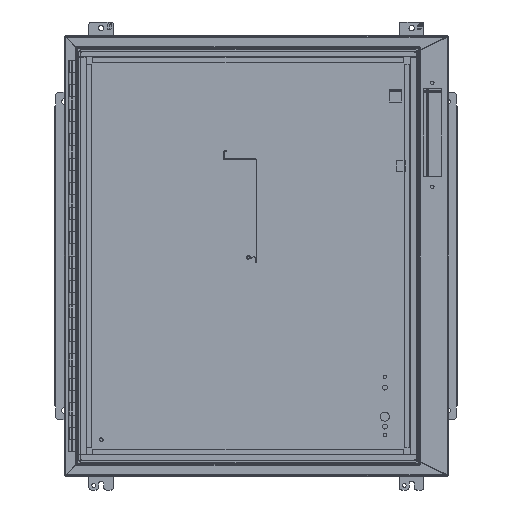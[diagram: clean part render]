
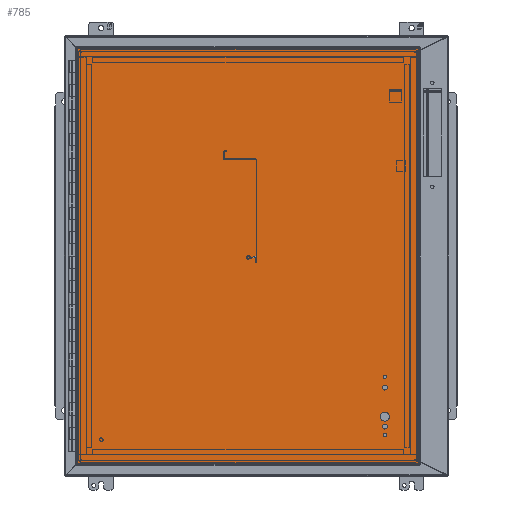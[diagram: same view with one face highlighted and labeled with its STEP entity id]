
A CAD part, front view. The second image highlights one B-rep face of the part: STEP entity #785.
In plain terms, the highlighted planar face has unit normal (0, -1, 0).
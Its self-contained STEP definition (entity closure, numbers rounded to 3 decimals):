
#785 = ADVANCED_FACE( '', ( #1780, #1781, #1782, #1783, #1784, #1785 ), #1786, .T. );
#1780 = FACE_BOUND( '', #3234, .T. );
#1781 = FACE_BOUND( '', #3235, .T. );
#1782 = FACE_OUTER_BOUND( '', #3236, .T. );
#1783 = FACE_BOUND( '', #3237, .T. );
#1784 = FACE_BOUND( '', #3238, .T. );
#1785 = FACE_BOUND( '', #3239, .T. );
#1786 = PLANE( '', #3240 );
#3234 = EDGE_LOOP( '', ( #6955 ) );
#3235 = EDGE_LOOP( '', ( #6956 ) );
#3236 = EDGE_LOOP( '', ( #6957, #6958, #6959, #6960 ) );
#3237 = EDGE_LOOP( '', ( #6961 ) );
#3238 = EDGE_LOOP( '', ( #6962 ) );
#3239 = EDGE_LOOP( '', ( #6963 ) );
#3240 = AXIS2_PLACEMENT_3D( '', #6964, #6965, #6966 );
#6955 = ORIENTED_EDGE( '', *, *, #10639, .T. );
#6956 = ORIENTED_EDGE( '', *, *, #10640, .T. );
#6957 = ORIENTED_EDGE( '', *, *, #10641, .F. );
#6958 = ORIENTED_EDGE( '', *, *, #10642, .T. );
#6959 = ORIENTED_EDGE( '', *, *, #10643, .F. );
#6960 = ORIENTED_EDGE( '', *, *, #10644, .F. );
#6961 = ORIENTED_EDGE( '', *, *, #10645, .T. );
#6962 = ORIENTED_EDGE( '', *, *, #10646, .T. );
#6963 = ORIENTED_EDGE( '', *, *, #10647, .T. );
#6964 = CARTESIAN_POINT( '', ( -357.188, 0., -434.188 ) );
#6965 = DIRECTION( '', ( 0., -1., 0. ) );
#6966 = DIRECTION( '', ( 0., 0., -1. ) );
#10639 = EDGE_CURVE( '', #12738, #12738, #12739, .T. );
#10640 = EDGE_CURVE( '', #12740, #12740, #12741, .T. );
#10641 = EDGE_CURVE( '', #12742, #12743, #12744, .T. );
#10642 = EDGE_CURVE( '', #12742, #12745, #12746, .T. );
#10643 = EDGE_CURVE( '', #12747, #12745, #12748, .T. );
#10644 = EDGE_CURVE( '', #12743, #12747, #12749, .T. );
#10645 = EDGE_CURVE( '', #12750, #12750, #12751, .T. );
#10646 = EDGE_CURVE( '', #12752, #12752, #12753, .T. );
#10647 = EDGE_CURVE( '', #12754, #12754, #12755, .T. );
#12738 = VERTEX_POINT( '', #15974 );
#12739 = CIRCLE( '', #15975, 3.569 );
#12740 = VERTEX_POINT( '', #15976 );
#12741 = CIRCLE( '', #15977, 5.156 );
#12742 = VERTEX_POINT( '', #15978 );
#12743 = VERTEX_POINT( '', #15979 );
#12744 = LINE( '', #15980, #15981 );
#12745 = VERTEX_POINT( '', #15982 );
#12746 = LINE( '', #15983, #15984 );
#12747 = VERTEX_POINT( '', #15985 );
#12748 = LINE( '', #15986, #15987 );
#12749 = LINE( '', #15988, #15989 );
#12750 = VERTEX_POINT( '', #15990 );
#12751 = CIRCLE( '', #15991, 9.525 );
#12752 = VERTEX_POINT( '', #15992 );
#12753 = CIRCLE( '', #15993, 3.569 );
#12754 = VERTEX_POINT( '', #15994 );
#12755 = CIRCLE( '', #15995, 5.156 );
#15974 = CARTESIAN_POINT( '', ( 287.731, 0., -371.5 ) );
#15975 = AXIS2_PLACEMENT_3D( '', #19888, #19889, #19890 );
#15976 = CARTESIAN_POINT( '', ( 289.319, 0., -354.038 ) );
#15977 = AXIS2_PLACEMENT_3D( '', #19891, #19892, #19893 );
#15978 = CARTESIAN_POINT( '', ( -354.444, 0., -431.444 ) );
#15979 = CARTESIAN_POINT( '', ( -354.444, 0., 431.444 ) );
#15980 = CARTESIAN_POINT( '', ( -354.444, 0., 431.444 ) );
#15981 = VECTOR( '', #19894, 1000. );
#15982 = CARTESIAN_POINT( '', ( 354.444, 0., -431.444 ) );
#15983 = CARTESIAN_POINT( '', ( 354.444, 0., -431.444 ) );
#15984 = VECTOR( '', #19895, 1000. );
#15985 = CARTESIAN_POINT( '', ( 354.444, 0., 431.444 ) );
#15986 = CARTESIAN_POINT( '', ( 354.444, 0., 431.444 ) );
#15987 = VECTOR( '', #19896, 1000. );
#15988 = CARTESIAN_POINT( '', ( -357.188, 0., 431.444 ) );
#15989 = VECTOR( '', #19897, 1000. );
#15990 = CARTESIAN_POINT( '', ( 293.688, 0., -333.4 ) );
#15991 = AXIS2_PLACEMENT_3D( '', #19898, #19899, #19900 );
#15992 = CARTESIAN_POINT( '', ( 287.731, 0., -250.85 ) );
#15993 = AXIS2_PLACEMENT_3D( '', #19901, #19902, #19903 );
#15994 = CARTESIAN_POINT( '', ( 289.319, 0., -273.075 ) );
#15995 = AXIS2_PLACEMENT_3D( '', #19904, #19905, #19906 );
#19888 = CARTESIAN_POINT( '', ( 284.163, 0., -371.5 ) );
#19889 = DIRECTION( '', ( 0., 1., 0. ) );
#19890 = DIRECTION( '', ( 1., 0., 0. ) );
#19891 = CARTESIAN_POINT( '', ( 284.163, 0., -354.038 ) );
#19892 = DIRECTION( '', ( 0., 1., 0. ) );
#19893 = DIRECTION( '', ( 1., 0., 0. ) );
#19894 = DIRECTION( '', ( 0., 0., 1. ) );
#19895 = DIRECTION( '', ( 1., 0., 0. ) );
#19896 = DIRECTION( '', ( 0., 0., -1. ) );
#19897 = DIRECTION( '', ( 1., 0., 0. ) );
#19898 = CARTESIAN_POINT( '', ( 284.163, 0., -333.4 ) );
#19899 = DIRECTION( '', ( 0., 1., 0. ) );
#19900 = DIRECTION( '', ( 1., 0., 0. ) );
#19901 = CARTESIAN_POINT( '', ( 284.163, 0., -250.85 ) );
#19902 = DIRECTION( '', ( 0., 1., 0. ) );
#19903 = DIRECTION( '', ( 1., 0., 0. ) );
#19904 = CARTESIAN_POINT( '', ( 284.163, 0., -273.075 ) );
#19905 = DIRECTION( '', ( 0., 1., 0. ) );
#19906 = DIRECTION( '', ( 1., 0., 0. ) );
